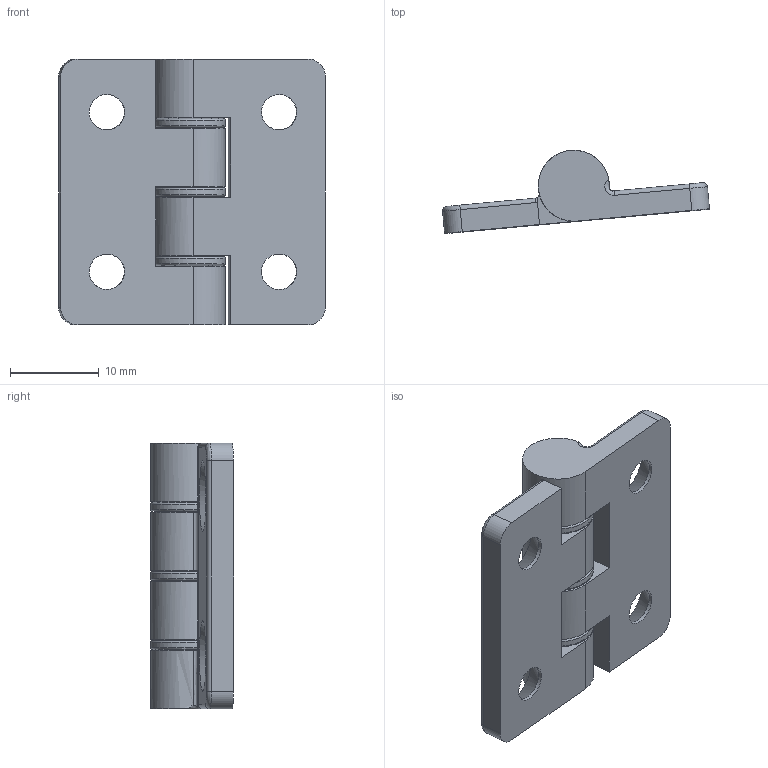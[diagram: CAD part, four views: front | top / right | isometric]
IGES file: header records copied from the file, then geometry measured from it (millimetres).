
Global section: file name: DR_HS3030; native system: Autodesk Inventor 2015; preprocessor: unknown; author: Administrator; date: 20170821.081431; units: millimetre
Bounding box: 30.1 x 9.36 x 30 mm (x, y, z)
Volume: 3182.4 mm3; surface area: 3118.3 mm2
Topology: 5 solids, 5 shells, 69 faces, 173 edges, 114 vertices
Faces by surface type: bspline 69
